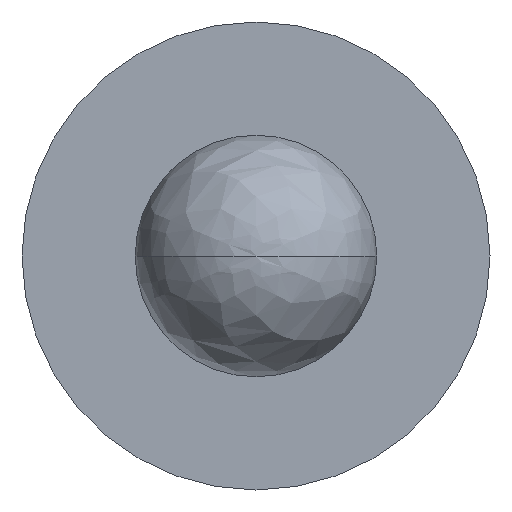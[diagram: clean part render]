
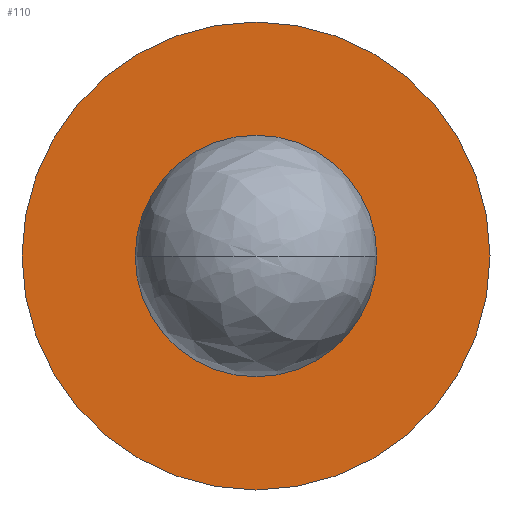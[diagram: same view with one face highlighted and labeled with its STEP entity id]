
A CAD part, left-side view. The second image highlights one B-rep face of the part: STEP entity #110.
In plain terms, the highlighted planar face has unit normal (-1, 0, 0).
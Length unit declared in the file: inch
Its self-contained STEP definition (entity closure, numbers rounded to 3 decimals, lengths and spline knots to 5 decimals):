
#2 = DIRECTION ( 'NONE',  ( 1., 0., 0. ) ) ;
#39 = AXIS2_PLACEMENT_3D ( 'NONE', #155, #602, #112 ) ;
#41 = DIRECTION ( 'NONE',  ( 0., 0., 1. ) ) ;
#61 = VERTEX_POINT ( 'NONE', #306 ) ;
#93 = AXIS2_PLACEMENT_3D ( 'NONE', #104, #2, #537 ) ;
#101 = EDGE_CURVE ( 'NONE', #61, #510, #291, .T. ) ;
#104 = CARTESIAN_POINT ( 'NONE',  ( 0.09, 0., 0. ) ) ;
#110 = ADVANCED_FACE ( 'NONE', ( #362, #574 ), #675, .F. ) ;
#112 = DIRECTION ( 'NONE',  ( 0., 0., 1. ) ) ;
#155 = CARTESIAN_POINT ( 'NONE',  ( 0.09, 0., 0. ) ) ;
#159 = CIRCLE ( 'NONE', #93, 0.062 ) ;
#169 = ORIENTED_EDGE ( 'NONE', *, *, #101, .T. ) ;
#178 = EDGE_CURVE ( 'NONE', #203, #188, #609, .T. ) ;
#188 = VERTEX_POINT ( 'NONE', #371 ) ;
#203 = VERTEX_POINT ( 'NONE', #571 ) ;
#204 = AXIS2_PLACEMENT_3D ( 'NONE', #407, #374, #323 ) ;
#234 = EDGE_CURVE ( 'NONE', #188, #203, #159, .T. ) ;
#249 = DIRECTION ( 'NONE',  ( 0., 0., 1. ) ) ;
#256 = EDGE_CURVE ( 'NONE', #510, #61, #388, .T. ) ;
#291 = CIRCLE ( 'NONE', #656, 0.032 ) ;
#306 = CARTESIAN_POINT ( 'NONE',  ( 0.09, 0., -0.032 ) ) ;
#308 = CARTESIAN_POINT ( 'NONE',  ( 0.09, 0., 0. ) ) ;
#323 = DIRECTION ( 'NONE',  ( 0., 0., -1. ) ) ;
#332 = ORIENTED_EDGE ( 'NONE', *, *, #234, .F. ) ;
#352 = CARTESIAN_POINT ( 'NONE',  ( 0.09, 0., 0.032 ) ) ;
#362 = FACE_BOUND ( 'NONE', #616, .T. ) ;
#371 = CARTESIAN_POINT ( 'NONE',  ( 0.09, 0., 0.062 ) ) ;
#372 = ORIENTED_EDGE ( 'NONE', *, *, #256, .T. ) ;
#374 = DIRECTION ( 'NONE',  ( 1., 0., 0. ) ) ;
#381 = ORIENTED_EDGE ( 'NONE', *, *, #178, .F. ) ;
#388 = CIRCLE ( 'NONE', #39, 0.032 ) ;
#407 = CARTESIAN_POINT ( 'NONE',  ( 0.09, -0.06274, 0.06274 ) ) ;
#510 = VERTEX_POINT ( 'NONE', #352 ) ;
#522 = DIRECTION ( 'NONE',  ( 1., 0., 0. ) ) ;
#537 = DIRECTION ( 'NONE',  ( 0., 0., 1. ) ) ;
#569 = EDGE_LOOP ( 'NONE', ( #332, #381 ) ) ;
#571 = CARTESIAN_POINT ( 'NONE',  ( 0.09, 0., -0.062 ) ) ;
#574 = FACE_OUTER_BOUND ( 'NONE', #569, .T. ) ;
#583 = CARTESIAN_POINT ( 'NONE',  ( 0.09, 0., 0. ) ) ;
#602 = DIRECTION ( 'NONE',  ( 1., 0., 0. ) ) ;
#609 = CIRCLE ( 'NONE', #634, 0.062 ) ;
#616 = EDGE_LOOP ( 'NONE', ( #372, #169 ) ) ;
#626 = DIRECTION ( 'NONE',  ( 1., 0., 0. ) ) ;
#634 = AXIS2_PLACEMENT_3D ( 'NONE', #308, #522, #41 ) ;
#656 = AXIS2_PLACEMENT_3D ( 'NONE', #583, #626, #249 ) ;
#675 = PLANE ( 'NONE',  #204 ) ;
